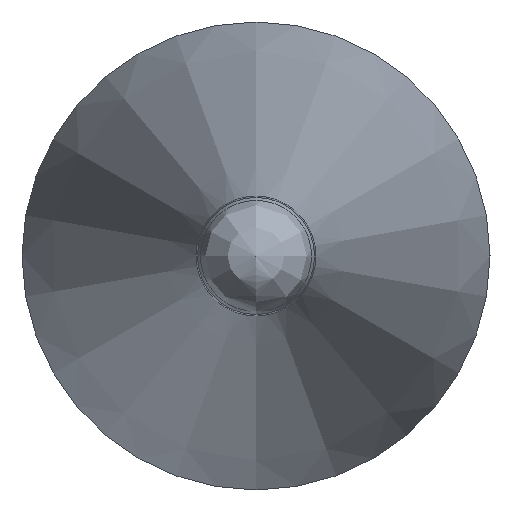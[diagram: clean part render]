
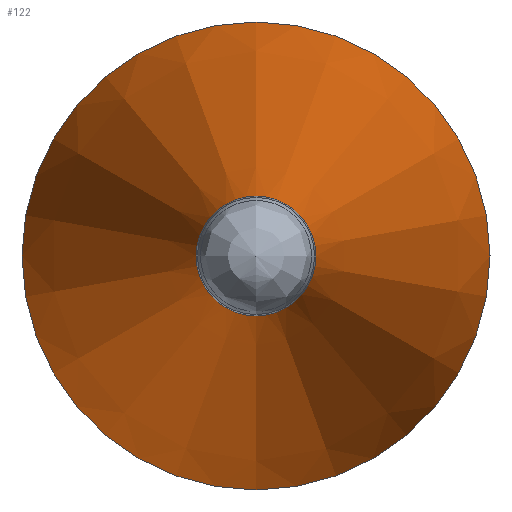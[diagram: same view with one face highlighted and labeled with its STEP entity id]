
A CAD part, left-side view. The second image highlights one B-rep face of the part: STEP entity #122.
In plain terms, the highlighted conical face has half-angle 12 degrees and reference radius 2 mm.
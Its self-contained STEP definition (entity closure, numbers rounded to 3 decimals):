
#98=CONICAL_SURFACE('',#197,2.,12.);
#107=FACE_BOUND('',#136,.T.);
#108=FACE_BOUND('',#137,.T.);
#122=ADVANCED_FACE('',(#107,#108),#98,.T.);
#136=EDGE_LOOP('',(#152));
#137=EDGE_LOOP('',(#153));
#152=ORIENTED_EDGE('',*,*,#175,.T.);
#153=ORIENTED_EDGE('',*,*,#176,.F.);
#166=VERTEX_POINT('',#249);
#167=VERTEX_POINT('',#252);
#175=EDGE_CURVE('',#166,#166,#183,.T.);
#176=EDGE_CURVE('',#167,#167,#184,.T.);
#183=CIRCLE('',#194,0.511);
#184=CIRCLE('',#196,2.);
#194=AXIS2_PLACEMENT_3D('',#248,#217,#218);
#196=AXIS2_PLACEMENT_3D('',#251,#221,#222);
#197=AXIS2_PLACEMENT_3D('',#253,#223,#224);
#217=DIRECTION('',(1.,0.,0.));
#218=DIRECTION('',(0.,0.,-1.));
#221=DIRECTION('',(1.,0.,0.));
#222=DIRECTION('',(0.,0.,-1.));
#223=DIRECTION('',(1.,0.,0.));
#224=DIRECTION('',(0.,0.,-1.));
#248=CARTESIAN_POINT('',(7899.912,6103.288,0.));
#249=CARTESIAN_POINT('',(7899.912,6103.288,-0.511));
#251=CARTESIAN_POINT('',(7906.915,6103.288,0.));
#252=CARTESIAN_POINT('',(7906.915,6103.288,-2.));
#253=CARTESIAN_POINT('',(7906.915,6103.288,0.));
